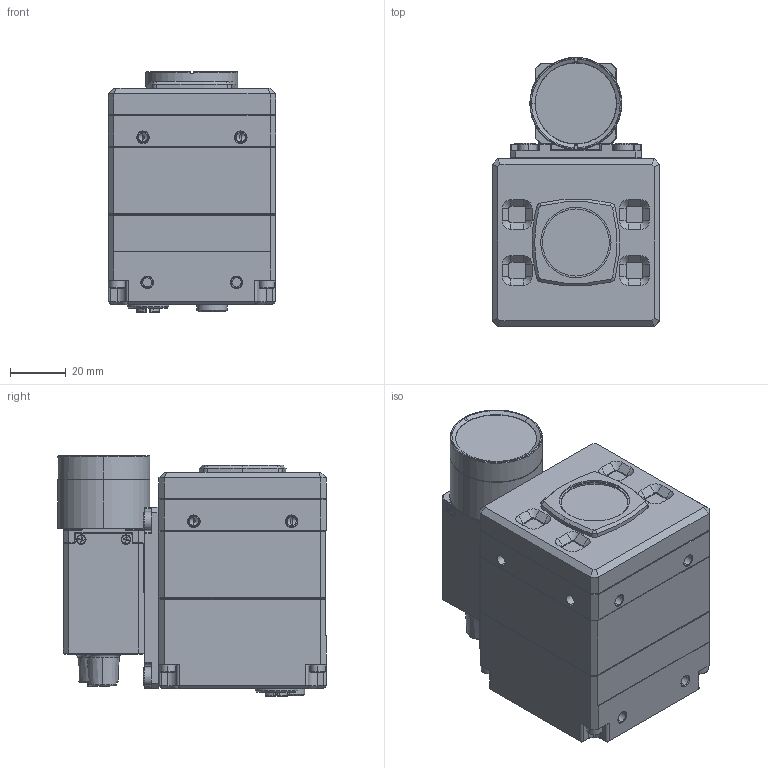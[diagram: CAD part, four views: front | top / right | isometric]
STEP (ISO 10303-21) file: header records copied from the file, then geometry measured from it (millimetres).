
FILE_DESCRIPTION (( 'STEP AP203' ), '1' );
FILE_NAME ('427-136-A.STEP', '2026-04-14T16:06:13', ( '' ), ( '' ), 'SwSTEP 2.0', 'SolidWorks 2021', '' );
FILE_SCHEMA (( 'CONFIG_CONTROL_DESIGN' ));
Products named in the file (1): 427-136-A
Bounding box: 60.1 x 96.3 x 86.05 mm (x, y, z)
Volume: 349836.8 mm3; surface area: 43754.1 mm2
Topology: 6 solids, 30 shells, 2020 faces, 4975 edges, 3081 vertices
Faces by surface type: plane 874, cylinder 553, cone 360, bspline 173, torus 52, sphere 8
Entity records: 66019 total; most frequent: CARTESIAN_POINT 18621, DIRECTION 10025, ORIENTED_EDGE 9858, EDGE_CURVE 4929, AXIS2_PLACEMENT_3D 3724, VERTEX_POINT 3081, VECTOR 2577, LINE 2577
